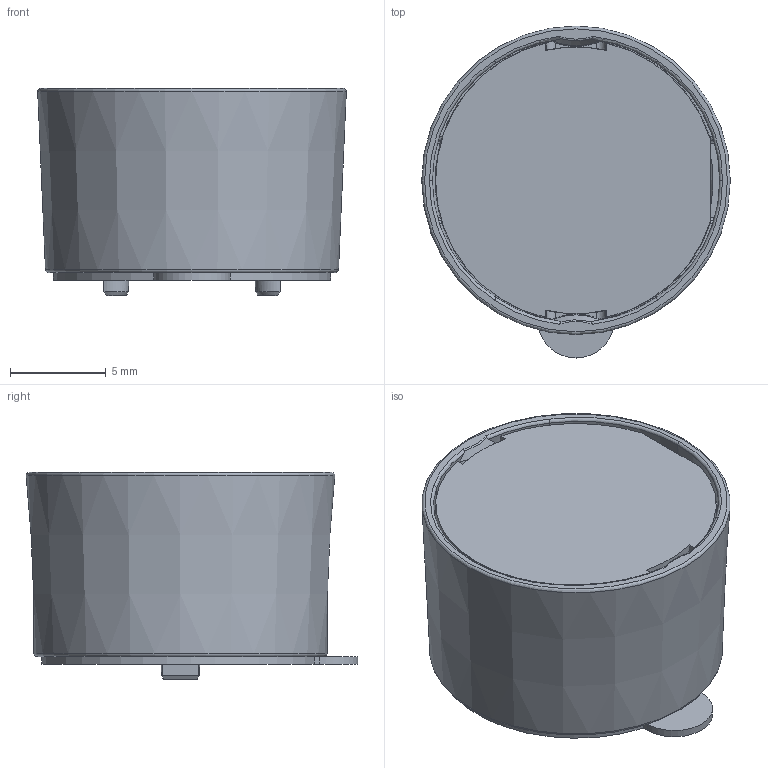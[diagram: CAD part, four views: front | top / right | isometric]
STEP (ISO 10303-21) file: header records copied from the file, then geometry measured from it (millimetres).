
FILE_DESCRIPTION(('STEP AP214'),'1');
FILE_NAME('JOYxxSA meccanico.stp','2024-09-06T15:10:57',(' '),(' '),'Spatial InterOp 3D',' ',' ');
FILE_SCHEMA(('AUTOMOTIVE_DESIGN { 1 0 10303 214 1 1 1 1 }'));
Length unit declared in the file: metre
Products named in the file (3): 1725629330; 1725629332; 1725630232
Bounding box: 16.1 x 17.3 x 10.8 mm (x, y, z)
Volume: 1347.2 mm3; surface area: 1977.3 mm2
Topology: 3 solids, 4 shells, 211 faces, 572 edges, 364 vertices
Faces by surface type: plane 59, bspline 52, cylinder 35, cone 29, torus 28, sphere 8
Full cylindrical faces by diameter (mm): 11 x1
Entity records: 13072 total; most frequent: CARTESIAN_POINT 4758, ORIENTED_EDGE 1098, DIRECTION 732, STYLED_ITEM 611, PRESENTATION_STYLE_ASSIGNMENT 611, COLOUR_RGB 611, EDGE_CURVE 549, CURVE_STYLE 399
